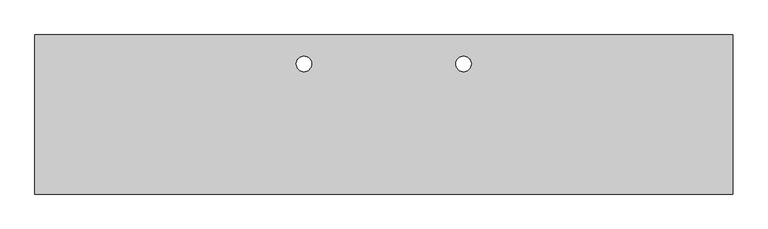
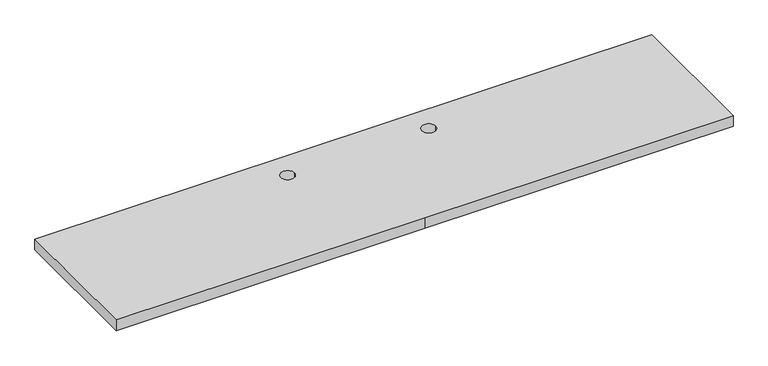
"""IFC4 building model written with IfcOpenShell, lengths in millimetres: furniture geometry, Base Superior do Painel de TV : Base Superior do Painel de TV."""

from ifc_helpers import new_model, si_unit, point, frame_2d, origin, origin_with_axes, place, context, project, spatial, polyline, circle_curve, trimmed, segment, composite_curve, outline, extrude, source, transform, mapped, element, save


def furniture_2afee2cb(model_context):
    return source(origin(), model_context, "Body", "SweptSolid", [
        extrude(outline(polyline([(1360.0, 0.0), (680.0, 0.0), (0.0, 0.0), (0.0, 310.0), (1360.0, 310.0), (1360.0, 0.0)]), holes=[composite_curve([segment(trimmed(circle_curve(frame_2d((524.5, 253.546555)), 15.0), [point((539.5, 253.546555))], [point((509.5, 253.546555))], True, "CARTESIAN"), True, "CONTINUOUS"), segment(trimmed(circle_curve(frame_2d((524.5, 253.546555)), 15.0), [point((509.5, 253.546555))], [point((539.5, 253.546555))], True, "CARTESIAN"), True, "CONTINUOUS")], self_intersect=False), composite_curve([segment(trimmed(circle_curve(frame_2d((835.5, 253.546555)), 15.0), [point((820.5, 253.546555))], [point((850.5, 253.546555))], True, "CARTESIAN"), True, "CONTINUOUS"), segment(trimmed(circle_curve(frame_2d((835.5, 253.546555)), 15.0), [point((850.5, 253.546555))], [point((820.5, 253.546555))], True, "CARTESIAN"), True, "CONTINUOUS")], self_intersect=False)]), origin_with_axes(), (0.0, 0.0, 1.0), 25.0),
    ])


if __name__ == "__main__":
    model = new_model("IFC4")
    model_context = context("Model", 3, world=origin())
    ifc_project = project(units=[si_unit("LENGTHUNIT", "METRE", prefix="MILLI")], contexts=[model_context])
    site = spatial("IfcSite", under=ifc_project)
    building = spatial("IfcBuilding", under=site)
    placement = place(None, origin())
    furniture_shape = furniture_2afee2cb(model_context)
    element("IfcFurniture", 1, ObjectType="Base Superior do Painel de TV : Base Superior do Painel de TV", at=placement, inside=building, context=model_context, shape_type="MappedRepresentation", body=[
        mapped(furniture_shape, transform((0.0, 0.0, 0.0), x_axis=(1.0, 0.0, 0.0), y_axis=(0.0, 1.0, 0.0), z_axis=(0.0, 0.0, 1.0))),
    ])
    save(model, "model.ifc")
